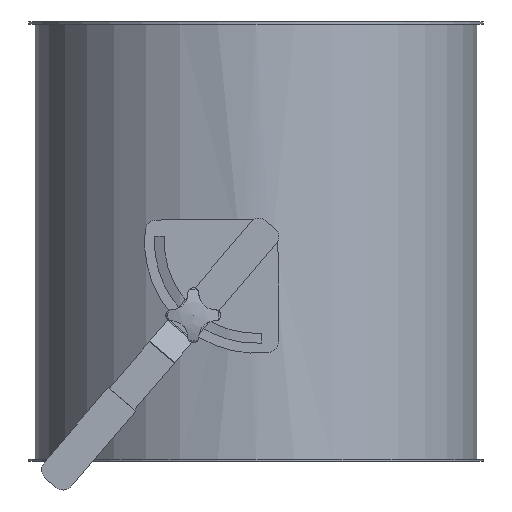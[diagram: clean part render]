
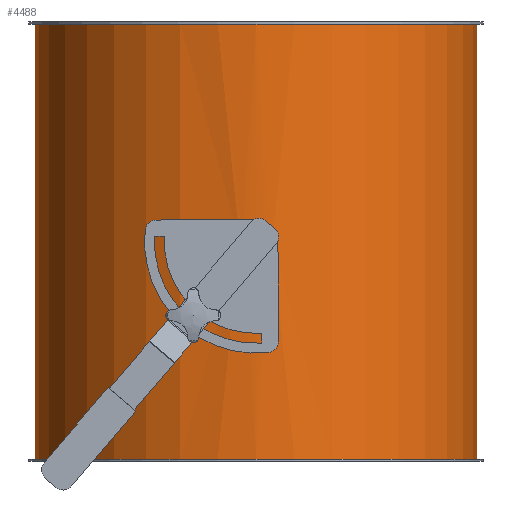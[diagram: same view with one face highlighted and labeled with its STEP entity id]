
A CAD part, left-side view. The second image highlights one B-rep face of the part: STEP entity #4488.
In plain terms, the highlighted cylindrical face has radius 201 mm (diameter 402 mm), a full revolution.
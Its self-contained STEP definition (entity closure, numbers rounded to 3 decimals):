
#4378=CARTESIAN_POINT('',(200.093,19.073,200.0));
#4379=VERTEX_POINT('',#4378);
#4389=CARTESIAN_POINT('',(200.093,19.073,200.));
#4390=CARTESIAN_POINT('',(200.093,19.073,200.002));
#4391=CARTESIAN_POINT('',(200.093,19.073,200.004));
#4392=CARTESIAN_POINT('',(200.093,19.073,200.006));
#4393=CARTESIAN_POINT('',(200.093,19.072,202.909));
#4394=CARTESIAN_POINT('',(200.19,18.113,207.249));
#4395=CARTESIAN_POINT('',(200.441,15.057,212.232));
#4396=CARTESIAN_POINT('',(200.72,11.013,216.391));
#4397=CARTESIAN_POINT('',(201.012,4.425,219.651));
#4398=CARTESIAN_POINT('',(201.017,-5.353,219.677));
#4399=CARTESIAN_POINT('',(200.602,-13.105,215.113));
#4400=CARTESIAN_POINT('',(200.249,-17.424,208.609));
#4401=CARTESIAN_POINT('',(200.028,-19.728,201.091));
#4402=CARTESIAN_POINT('',(200.17,-18.389,192.032));
#4403=CARTESIAN_POINT('',(200.663,-12.311,184.25));
#4404=CARTESIAN_POINT('',(201.013,-4.399,180.34));
#4405=CARTESIAN_POINT('',(201.014,4.383,180.34));
#4406=CARTESIAN_POINT('',(200.663,12.293,184.226));
#4407=CARTESIAN_POINT('',(200.297,16.858,190.087));
#4408=CARTESIAN_POINT('',(200.125,18.747,195.613));
#4409=CARTESIAN_POINT('',(200.093,19.073,198.551));
#4410=CARTESIAN_POINT('',(200.093,19.073,200.));
#4411=B_SPLINE_CURVE_WITH_KNOTS('',3,(#4389,#4390,#4391,#4392,#4393,#4394,#4395,#4396,#4397,#4398,#4399,#4400,#4401,#4402,#4403,#4404,#4405,#4406,#4407,#4408,#4409,#4410),.UNSPECIFIED.,.T.,.U.,(4,3,1,1,1,1,1,1,1,1,1,1,1,1,1,1,1,4),(-9.045,-9.044,-8.398,-8.075,-7.752,-7.106,-6.46,-5.599,-5.168,-4.737,-3.876,-3.23,-2.584,-1.938,-1.292,-0.646,-0.323,0.),.UNSPECIFIED.);
#4412=EDGE_CURVE('',#4379,#4379,#4411,.T.);
#4417=CARTESIAN_POINT('',(0.0,0.0,0.0));
#4418=DIRECTION('',(0.0,0.0,1.0));
#4419=DIRECTION('',(-1.0,0.0,0.0));
#4420=AXIS2_PLACEMENT_3D('',#4417,#4418,#4419);
#4421=CYLINDRICAL_SURFACE('',#4420,201.0);
#4422=CARTESIAN_POINT('',(201.0,0.,398.0));
#4423=VERTEX_POINT('',#4422);
#4424=CARTESIAN_POINT('',(0.0,0.0,398.0));
#4425=DIRECTION('',(0.0,0.0,-1.0));
#4426=DIRECTION('',(-1.0,0.0,0.0));
#4427=AXIS2_PLACEMENT_3D('',#4424,#4425,#4426);
#4428=CIRCLE('',#4427,201.0);
#4429=EDGE_CURVE('',#4423,#4423,#4428,.T.);
#4430=ORIENTED_EDGE('',*,*,#4429,.T.);
#4431=EDGE_LOOP('',(#4430));
#4432=FACE_OUTER_BOUND('',#4431,.T.);
#4433=CARTESIAN_POINT('',(-201.0,0.,2.0));
#4434=VERTEX_POINT('',#4433);
#4435=CARTESIAN_POINT('',(0.0,0.0,2.0));
#4436=DIRECTION('',(0.0,0.0,1.0));
#4437=DIRECTION('',(-1.0,0.0,0.0));
#4438=AXIS2_PLACEMENT_3D('',#4435,#4436,#4437);
#4439=CIRCLE('',#4438,201.0);
#4440=EDGE_CURVE('',#4434,#4434,#4439,.T.);
#4441=ORIENTED_EDGE('',*,*,#4440,.T.);
#4442=EDGE_LOOP('',(#4441));
#4443=FACE_BOUND('',#4442,.T.);
#4444=CARTESIAN_POINT('',(-200.44,15.,200.0));
#4445=VERTEX_POINT('',#4444);
#4446=CARTESIAN_POINT('',(-200.44,15.,200.0));
#4447=CARTESIAN_POINT('',(-200.44,15.,201.884));
#4448=CARTESIAN_POINT('',(-200.469,14.623,203.893));
#4449=CARTESIAN_POINT('',(-200.575,13.092,207.589));
#4450=CARTESIAN_POINT('',(-200.65,11.938,209.275));
#4451=CARTESIAN_POINT('',(-200.79,9.275,211.938));
#4452=CARTESIAN_POINT('',(-200.865,7.589,213.092));
#4453=CARTESIAN_POINT('',(-200.971,3.893,214.623));
#4454=CARTESIAN_POINT('',(-201.0,1.884,215.0));
#4455=CARTESIAN_POINT('',(-201.0,-1.884,215.0));
#4456=CARTESIAN_POINT('',(-200.971,-3.893,214.623));
#4457=CARTESIAN_POINT('',(-200.865,-7.589,213.092));
#4458=CARTESIAN_POINT('',(-200.79,-9.275,211.938));
#4459=CARTESIAN_POINT('',(-200.65,-11.938,209.275));
#4460=CARTESIAN_POINT('',(-200.575,-13.092,207.589));
#4461=CARTESIAN_POINT('',(-200.469,-14.623,203.893));
#4462=CARTESIAN_POINT('',(-200.44,-15.0,201.884));
#4463=CARTESIAN_POINT('',(-200.44,-15.0,198.116));
#4464=CARTESIAN_POINT('',(-200.469,-14.623,196.107));
#4465=CARTESIAN_POINT('',(-200.575,-13.092,192.411));
#4466=CARTESIAN_POINT('',(-200.65,-11.938,190.725));
#4467=CARTESIAN_POINT('',(-200.79,-9.275,188.062));
#4468=CARTESIAN_POINT('',(-200.865,-7.589,186.908));
#4469=CARTESIAN_POINT('',(-200.971,-3.893,185.377));
#4470=CARTESIAN_POINT('',(-201.0,-1.884,185.0));
#4471=CARTESIAN_POINT('',(-201.0,1.884,185.0));
#4472=CARTESIAN_POINT('',(-200.971,3.893,185.377));
#4473=CARTESIAN_POINT('',(-200.865,7.589,186.908));
#4474=CARTESIAN_POINT('',(-200.79,9.275,188.062));
#4475=CARTESIAN_POINT('',(-200.65,11.938,190.725));
#4476=CARTESIAN_POINT('',(-200.575,13.092,192.411));
#4477=CARTESIAN_POINT('',(-200.469,14.623,196.107));
#4478=CARTESIAN_POINT('',(-200.44,15.,198.116));
#4479=CARTESIAN_POINT('',(-200.44,15.,200.0));
#4480=B_SPLINE_CURVE_WITH_KNOTS('',3,(#4446,#4447,#4448,#4449,#4450,#4451,#4452,#4453,#4454,#4455,#4456,#4457,#4458,#4459,#4460,#4461,#4462,#4463,#4464,#4465,#4466,#4467,#4468,#4469,#4470,#4471,#4472,#4473,#4474,#4475,#4476,#4477,#4478,#4479),.UNSPECIFIED.,.T.,.U.,(4,2,2,2,2,2,2,2,2,2,2,2,2,2,2,2,4),(0.0,0.565,1.131,1.696,2.261,2.826,3.392,3.957,4.522,5.087,5.653,6.218,6.783,7.348,7.914,8.479,9.044),.UNSPECIFIED.);
#4481=EDGE_CURVE('',#4445,#4445,#4480,.T.);
#4482=ORIENTED_EDGE('',*,*,#4481,.T.);
#4483=EDGE_LOOP('',(#4482));
#4484=FACE_BOUND('',#4483,.T.);
#4485=ORIENTED_EDGE('',*,*,#4412,.F.);
#4486=EDGE_LOOP('',(#4485));
#4487=FACE_BOUND('',#4486,.T.);
#4488=ADVANCED_FACE('',(#4432,#4443,#4484,#4487),#4421,.T.);
